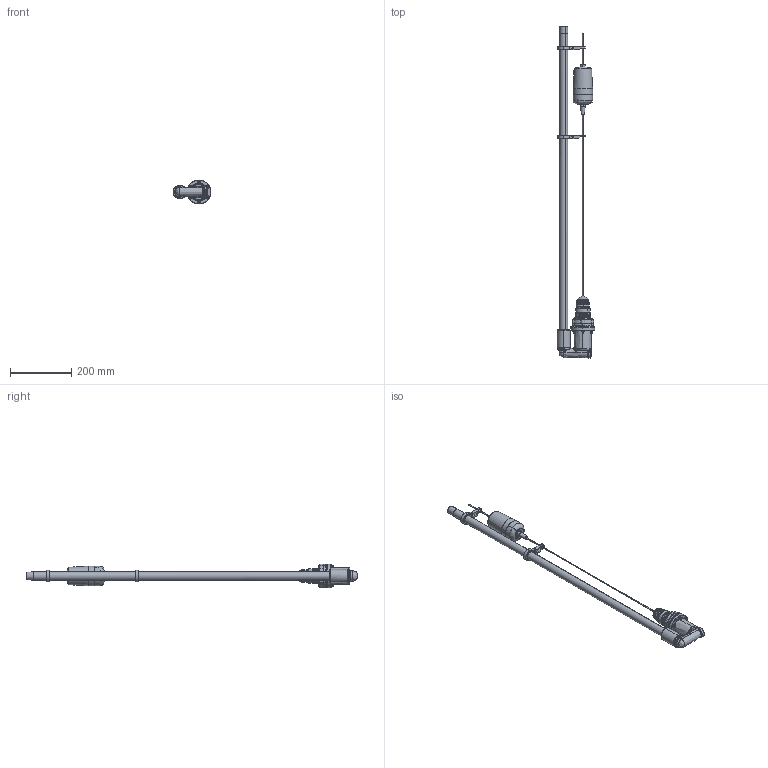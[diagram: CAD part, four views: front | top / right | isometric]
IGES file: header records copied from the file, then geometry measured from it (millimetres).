
Start section: SolidWorks IGES file using NURBS representation for surfaces
Global section: file name: N:\Solid Works\WTC\454BrineValve\Artwork\454Assm.IGS; native system: SolidWorks 2012; preprocessor: SolidWorks 2012; author: marshall; date: 130206.110227; units: inch
Bounding box: 122.45 x 1082.34 x 77.8 mm (x, y, z)
Surface area: 210769.6 mm2 (no closed solid volume)
Topology: 0 solids, 0 shells, 642 faces, 13681 edges, 16389 vertices
Faces by surface type: bspline 642
